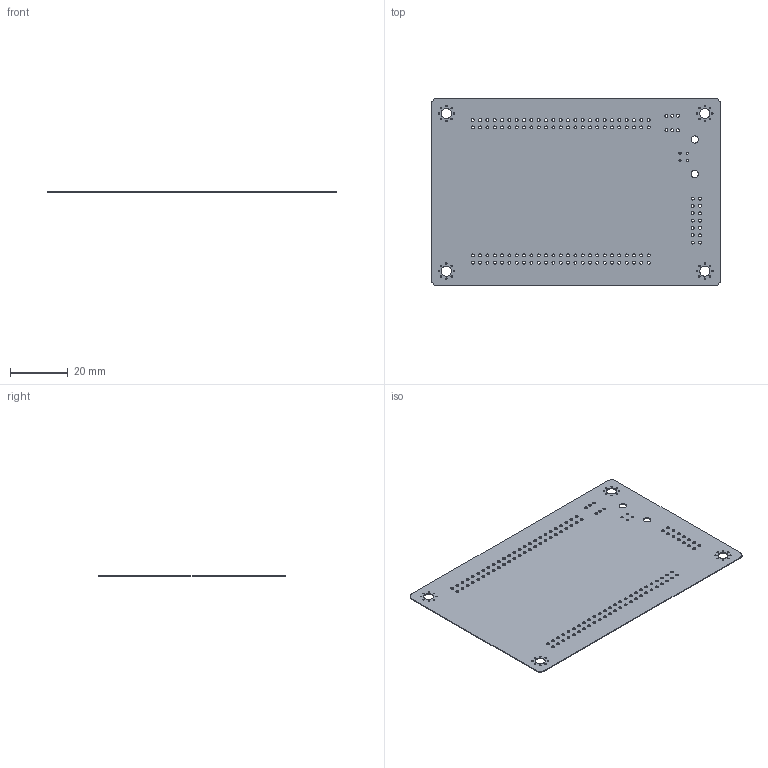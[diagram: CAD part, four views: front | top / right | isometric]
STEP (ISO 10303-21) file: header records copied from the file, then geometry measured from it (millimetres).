
FILE_DESCRIPTION(('Open CASCADE Model'),'2;1');
FILE_NAME('Open CASCADE Shape Model','2023-06-15T11:02:16',('Author'),( 'Open CASCADE'),'Open CASCADE STEP processor 7.5','Open CASCADE 7.5' ,'Unknown');
FILE_SCHEMA(('AUTOMOTIVE_DESIGN { 1 0 10303 214 1 1 1 1 }'));
Length unit declared in the file: millimetre
Products named in the file (3): PCB; Board; Open CASCADE STEP translator 7.5 1.1.1
Assembly tree (2 placements, depth 3):
  PCB
    Board
      Open CASCADE STEP translator 7.5 1.1.1
Bounding box: 100.03 x 65.03 x 0.28 mm (x, y, z)
Volume: 1805.4 mm3; surface area: 12929 mm2
Topology: 1 solids, 1 shells, 172 faces, 510 edges, 340 vertices
Faces by surface type: cylinder 166, plane 6
Full cylindrical faces by diameter (mm): 0.508 x32, 0.762 x4, 1.016 x120, 2.54 x2, 3.506 x4
Entity records: 6671 total; most frequent: DIRECTION 1192, CARTESIAN_POINT 1025, ORIENTED_EDGE 1020, EDGE_CURVE 510, AXIS2_PLACEMENT_3D 507, FACE_BOUND 496, EDGE_LOOP 496, VERTEX_POINT 340
